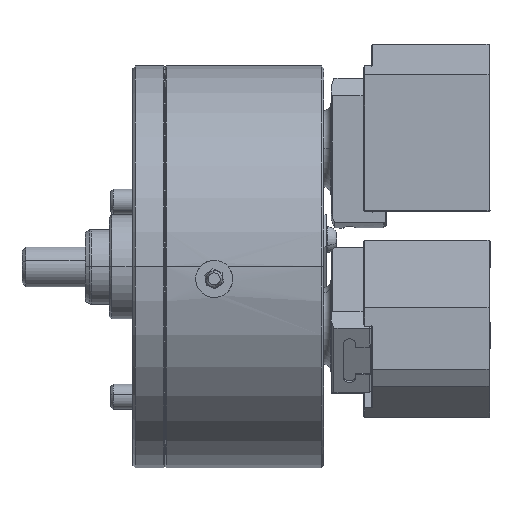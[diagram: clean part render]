
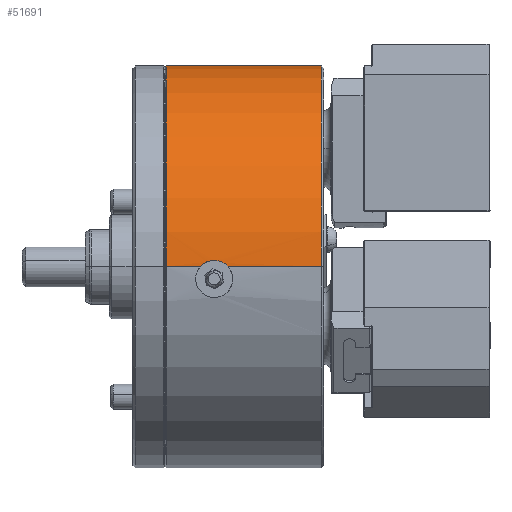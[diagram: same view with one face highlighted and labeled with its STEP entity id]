
A CAD part, top view. The second image highlights one B-rep face of the part: STEP entity #51691.
In plain terms, the highlighted cylindrical face has radius 81 mm (diameter 162 mm), a partial arc.
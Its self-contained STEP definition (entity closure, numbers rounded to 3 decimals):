
#923 = DIRECTION ( 'NONE',  ( 0., 0., 1. ) ) ;
#1369 = CARTESIAN_POINT ( 'NONE',  ( -1., 0., 0. ) ) ;
#1748 = CARTESIAN_POINT ( 'NONE',  ( -63.6, 0., 81. ) ) ;
#1874 = VECTOR ( 'NONE', #15505, 1000. ) ;
#2691 = CARTESIAN_POINT ( 'NONE',  ( -49.79, 0., 81. ) ) ;
#3552 = CARTESIAN_POINT ( 'NONE',  ( -44.464, 2.5, 80.961 ) ) ;
#3961 = VERTEX_POINT ( 'NONE', #5252 ) ;
#5252 = CARTESIAN_POINT ( 'NONE',  ( -1., 0., -81. ) ) ;
#5466 = DIRECTION ( 'NONE',  ( 0., 0., 1. ) ) ;
#6795 = ORIENTED_EDGE ( 'NONE', *, *, #14518, .F. ) ;
#7639 = CARTESIAN_POINT ( 'NONE',  ( -43.155, 2.445, 80.963 ) ) ;
#7753 = CARTESIAN_POINT ( 'NONE',  ( -63.6, 0., -81. ) ) ;
#8602 = ORIENTED_EDGE ( 'NONE', *, *, #9720, .F. ) ;
#9464 = AXIS2_PLACEMENT_3D ( 'NONE', #1369, #29898, #5466 ) ;
#9720 = EDGE_CURVE ( 'NONE', #17540, #47958, #35848, .T. ) ;
#11429 = CARTESIAN_POINT ( 'NONE',  ( -49.79, 0., 81. ) ) ;
#11599 = CARTESIAN_POINT ( 'NONE',  ( -49.045, 0.749, 80.997 ) ) ;
#11779 = CARTESIAN_POINT ( 'NONE',  ( -42.128, 2.213, 80.97 ) ) ;
#12136 = FACE_OUTER_BOUND ( 'NONE', #21213, .T. ) ;
#12140 = VERTEX_POINT ( 'NONE', #27051 ) ;
#13906 = LINE ( 'NONE', #24990, #45139 ) ;
#14518 = EDGE_CURVE ( 'NONE', #50222, #12140, #13906, .T. ) ;
#15505 = DIRECTION ( 'NONE',  ( -1., 0., 0. ) ) ;
#15700 = CARTESIAN_POINT ( 'NONE',  ( -47.746, 1.63, 80.984 ) ) ;
#15871 = CARTESIAN_POINT ( 'NONE',  ( -41.382, 1.955, 80.976 ) ) ;
#16821 = ORIENTED_EDGE ( 'NONE', *, *, #52008, .T. ) ;
#17216 = ORIENTED_EDGE ( 'NONE', *, *, #51984, .T. ) ;
#17540 = VERTEX_POINT ( 'NONE', #2691 ) ;
#19684 = ORIENTED_EDGE ( 'NONE', *, *, #36475, .T. ) ;
#19769 = CARTESIAN_POINT ( 'NONE',  ( -46.775, 2.049, 80.974 ) ) ;
#19927 = CARTESIAN_POINT ( 'NONE',  ( -30.978, 0., 81. ) ) ;
#19940 = CARTESIAN_POINT ( 'NONE',  ( -40.21, 1.373, 80.989 ) ) ;
#20958 = AXIS2_PLACEMENT_3D ( 'NONE', #46180, #21755, #50270 ) ;
#21061 = DIRECTION ( 'NONE',  ( -1., 0., 0. ) ) ;
#21213 = EDGE_LOOP ( 'NONE', ( #19684, #17216, #30575, #8602, #16821, #6795 ) ) ;
#21755 = DIRECTION ( 'NONE',  ( -1., 0., 0. ) ) ;
#23899 = CARTESIAN_POINT ( 'NONE',  ( -45.771, 2.348, 80.966 ) ) ;
#24077 = CARTESIAN_POINT ( 'NONE',  ( -38.963, 0.395, 81. ) ) ;
#24990 = CARTESIAN_POINT ( 'NONE',  ( -30.978, 0., 81. ) ) ;
#25651 = CIRCLE ( 'NONE', #20958, 81. ) ;
#27051 = CARTESIAN_POINT ( 'NONE',  ( -38.61, 0., 81. ) ) ;
#28018 = CARTESIAN_POINT ( 'NONE',  ( -44.73, 2.486, 80.962 ) ) ;
#29362 = AXIS2_PLACEMENT_3D ( 'NONE', #41556, #21061, #923 ) ;
#29898 = DIRECTION ( 'NONE',  ( -1., 0., 0. ) ) ;
#30575 = ORIENTED_EDGE ( 'NONE', *, *, #46776, .F. ) ;
#30671 = VERTEX_POINT ( 'NONE', #7753 ) ;
#31213 = CARTESIAN_POINT ( 'NONE',  ( -30.978, 0., -81. ) ) ;
#32076 = CARTESIAN_POINT ( 'NONE',  ( -43.675, 2.5, 80.961 ) ) ;
#32256 = DIRECTION ( 'NONE',  ( -1., 0., 0. ) ) ;
#33116 = LINE ( 'NONE', #31213, #1874 ) ;
#33161 = DIRECTION ( 'NONE',  ( -1., 0., 0. ) ) ;
#34136 = CARTESIAN_POINT ( 'NONE',  ( -1., 0., 81. ) ) ;
#35848 = LINE ( 'NONE', #19927, #47984 ) ;
#36160 = CARTESIAN_POINT ( 'NONE',  ( -42.385, 2.282, 80.968 ) ) ;
#36475 = EDGE_CURVE ( 'NONE', #50222, #3961, #47262, .T. ) ;
#40097 = CARTESIAN_POINT ( 'NONE',  ( -48.198, 1.367, 80.989 ) ) ;
#40283 = CARTESIAN_POINT ( 'NONE',  ( -41.626, 2.05, 80.974 ) ) ;
#41556 = CARTESIAN_POINT ( 'NONE',  ( -30.978, 0., 0. ) ) ;
#44198 = CARTESIAN_POINT ( 'NONE',  ( -47.023, 1.953, 80.977 ) ) ;
#44383 = CARTESIAN_POINT ( 'NONE',  ( -40.665, 1.635, 80.984 ) ) ;
#45139 = VECTOR ( 'NONE', #33161, 1000. ) ;
#46180 = CARTESIAN_POINT ( 'NONE',  ( -63.6, 0., 0. ) ) ;
#46776 = EDGE_CURVE ( 'NONE', #47958, #30671, #25651, .T. ) ;
#47262 = CIRCLE ( 'NONE', #9464, 81. ) ;
#47958 = VERTEX_POINT ( 'NONE', #1748 ) ;
#47984 = VECTOR ( 'NONE', #32256, 1000. ) ;
#48300 = CARTESIAN_POINT ( 'NONE',  ( -46.276, 2.212, 80.97 ) ) ;
#48485 = CARTESIAN_POINT ( 'NONE',  ( -39.354, 0.749, 80.997 ) ) ;
#50222 = VERTEX_POINT ( 'NONE', #34136 ) ;
#50270 = DIRECTION ( 'NONE',  ( 0., 0., 1. ) ) ;
#50362 = CYLINDRICAL_SURFACE ( 'NONE', #29362, 81. ) ;
#50394 = B_SPLINE_CURVE_WITH_KNOTS ( 'NONE', 3,
 ( #11429, #52251, #11599, #40097, #15700, #44198, #19769, #48300, #23899, #52421, #28018, #3552, #32076, #7639, #36160, #11779, #40283, #15871, #44383, #19940, #48485, #24077, #52601 ),
 .UNSPECIFIED., .F., .F.,
 ( 4, 2, 2, 2, 1, 2, 2, 2, 2, 2, 2, 4 ),
 ( 0.034, 0.036, 0.038, 0.038, 0.039, 0.04, 0.041, 0.042, 0.043, 0.044, 0.045, 0.047 ),
 .UNSPECIFIED. ) ;
#51691 = ADVANCED_FACE ( 'NONE', ( #12136 ), #50362, .T. ) ;
#51984 = EDGE_CURVE ( 'NONE', #3961, #30671, #33116, .T. ) ;
#52008 = EDGE_CURVE ( 'NONE', #17540, #12140, #50394, .T. ) ;
#52251 = CARTESIAN_POINT ( 'NONE',  ( -49.441, 0.39, 81. ) ) ;
#52421 = CARTESIAN_POINT ( 'NONE',  ( -45.254, 2.43, 80.964 ) ) ;
#52601 = CARTESIAN_POINT ( 'NONE',  ( -38.61, 0., 81. ) ) ;
